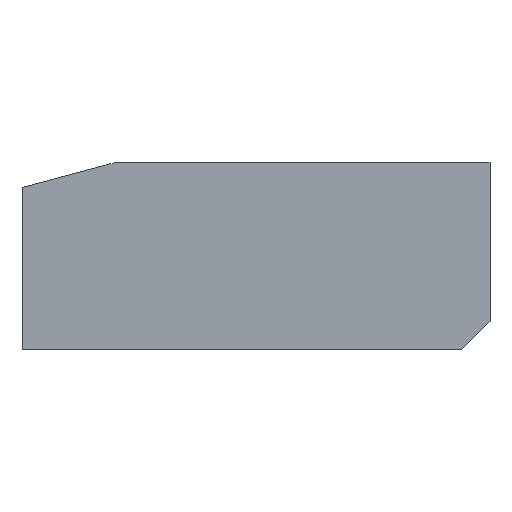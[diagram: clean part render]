
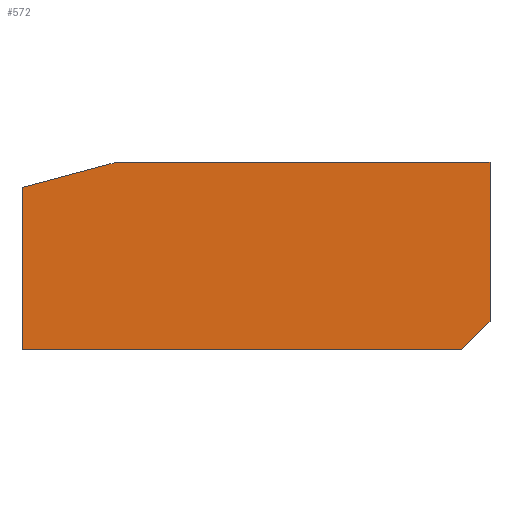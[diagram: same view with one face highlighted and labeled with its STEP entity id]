
A CAD part, front view. The second image highlights one B-rep face of the part: STEP entity #572.
In plain terms, the highlighted planar face has unit normal (0, -1, 0).
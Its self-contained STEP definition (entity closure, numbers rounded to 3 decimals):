
#1 = VERTEX_POINT ( 'NONE', #463 ) ;
#6 = VECTOR ( 'NONE', #419, 1000. ) ;
#14 = ORIENTED_EDGE ( 'NONE', *, *, #505, .F. ) ;
#30 = CARTESIAN_POINT ( 'NONE',  ( 47., 0., 0. ) ) ;
#45 = ORIENTED_EDGE ( 'NONE', *, *, #605, .T. ) ;
#54 = EDGE_LOOP ( 'NONE', ( #138, #112, #45, #522, #229, #14, #315 ) ) ;
#58 = EDGE_CURVE ( 'NONE', #178, #593, #235, .T. ) ;
#112 = ORIENTED_EDGE ( 'NONE', *, *, #195, .T. ) ;
#134 = DIRECTION ( 'NONE',  ( 1., 0., 0. ) ) ;
#138 = ORIENTED_EDGE ( 'NONE', *, *, #58, .F. ) ;
#140 = CARTESIAN_POINT ( 'NONE',  ( 50., 0., 20. ) ) ;
#145 = CARTESIAN_POINT ( 'NONE',  ( 48.5, 0., 1.5 ) ) ;
#150 = LINE ( 'NONE', #418, #326 ) ;
#155 = CARTESIAN_POINT ( 'NONE',  ( 4.682, 0., 18.575 ) ) ;
#159 = LINE ( 'NONE', #145, #480 ) ;
#178 = VERTEX_POINT ( 'NONE', #317 ) ;
#182 = VECTOR ( 'NONE', #404, 1000. ) ;
#190 = EDGE_CURVE ( 'NONE', #593, #257, #382, .T. ) ;
#195 = EDGE_CURVE ( 'NONE', #178, #562, #150, .T. ) ;
#226 = FACE_OUTER_BOUND ( 'NONE', #54, .T. ) ;
#229 = ORIENTED_EDGE ( 'NONE', *, *, #271, .F. ) ;
#235 = LINE ( 'NONE', #155, #6 ) ;
#239 = LINE ( 'NONE', #367, #182 ) ;
#257 = VERTEX_POINT ( 'NONE', #494 ) ;
#271 = EDGE_CURVE ( 'NONE', #415, #1, #385, .T. ) ;
#277 = AXIS2_PLACEMENT_3D ( 'NONE', #454, #449, #134 ) ;
#309 = DIRECTION ( 'NONE',  ( -0.707, 0., -0.707 ) ) ;
#311 = AXIS2_PLACEMENT_3D ( 'NONE', #513, #591, #586 ) ;
#315 = ORIENTED_EDGE ( 'NONE', *, *, #190, .F. ) ;
#317 = CARTESIAN_POINT ( 'NONE',  ( 0., 0., 17.321 ) ) ;
#326 = VECTOR ( 'NONE', #441, 1000. ) ;
#330 = VERTEX_POINT ( 'NONE', #30 ) ;
#345 = CARTESIAN_POINT ( 'NONE',  ( 0., 0., 0. ) ) ;
#360 = CARTESIAN_POINT ( 'NONE',  ( 9.364, 0., 19.83 ) ) ;
#367 = CARTESIAN_POINT ( 'NONE',  ( 30.329, 0., 20. ) ) ;
#382 = CIRCLE ( 'NONE', #277, 5. ) ;
#385 = LINE ( 'NONE', #489, #393 ) ;
#393 = VECTOR ( 'NONE', #590, 1000. ) ;
#395 = CARTESIAN_POINT ( 'NONE',  ( 23.5, 0., 0. ) ) ;
#404 = DIRECTION ( 'NONE',  ( 1., 0., 0. ) ) ;
#415 = VERTEX_POINT ( 'NONE', #140 ) ;
#418 = CARTESIAN_POINT ( 'NONE',  ( 0., 0., 8.66 ) ) ;
#419 = DIRECTION ( 'NONE',  ( 0.966, 0., 0.259 ) ) ;
#441 = DIRECTION ( 'NONE',  ( 0., 0., -1. ) ) ;
#449 = DIRECTION ( 'NONE',  ( 0., 1., 0. ) ) ;
#454 = CARTESIAN_POINT ( 'NONE',  ( 10.658, 0., 15. ) ) ;
#463 = CARTESIAN_POINT ( 'NONE',  ( 50., 0., 3. ) ) ;
#469 = EDGE_CURVE ( 'NONE', #1, #330, #159, .T. ) ;
#480 = VECTOR ( 'NONE', #309, 1000. ) ;
#489 = CARTESIAN_POINT ( 'NONE',  ( 50., 0., 11.5 ) ) ;
#490 = DIRECTION ( 'NONE',  ( 1., 0., 0. ) ) ;
#494 = CARTESIAN_POINT ( 'NONE',  ( 10.658, 0., 20. ) ) ;
#505 = EDGE_CURVE ( 'NONE', #257, #415, #239, .T. ) ;
#510 = VECTOR ( 'NONE', #490, 1000. ) ;
#513 = CARTESIAN_POINT ( 'NONE',  ( 0., 0., 20. ) ) ;
#516 = LINE ( 'NONE', #395, #510 ) ;
#522 = ORIENTED_EDGE ( 'NONE', *, *, #469, .F. ) ;
#545 = PLANE ( 'NONE',  #311 ) ;
#562 = VERTEX_POINT ( 'NONE', #345 ) ;
#572 = ADVANCED_FACE ( 'NONE', ( #226 ), #545, .T. ) ;
#586 = DIRECTION ( 'NONE',  ( 0., 0., -1. ) ) ;
#590 = DIRECTION ( 'NONE',  ( 0., 0., -1. ) ) ;
#591 = DIRECTION ( 'NONE',  ( 0., -1., 0. ) ) ;
#593 = VERTEX_POINT ( 'NONE', #360 ) ;
#605 = EDGE_CURVE ( 'NONE', #562, #330, #516, .T. ) ;
